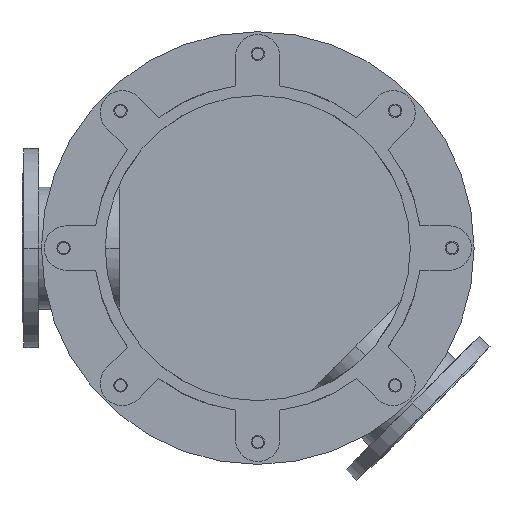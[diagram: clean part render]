
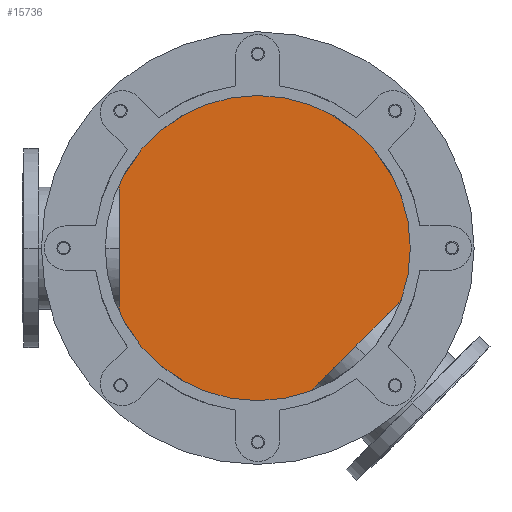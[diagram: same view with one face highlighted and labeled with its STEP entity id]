
A CAD part, front view. The second image highlights one B-rep face of the part: STEP entity #15736.
In plain terms, the highlighted planar face has unit normal (0, -1, 0).
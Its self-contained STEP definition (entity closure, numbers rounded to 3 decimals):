
#3909=CARTESIAN_POINT('',(0.,1359.,0.));
#3910=DIRECTION('',(0.,-1.,0.));
#3911=DIRECTION('',(0.,0.,-1.));
#3912=AXIS2_PLACEMENT_3D('',#3909,#3910,#3911);
#4060=CARTESIAN_POINT('',(0.,1359.,0.));
#4061=DIRECTION('',(0.,-1.,0.));
#4062=DIRECTION('',(0.,0.,1.));
#4063=AXIS2_PLACEMENT_3D('',#4060,#4061,#4062);
#9186=CARTESIAN_POINT('',(0.,1359.,290.));
#9187=CARTESIAN_POINT('',(0.,1359.,-290.));
#9188=VERTEX_POINT('',#9186);
#9189=VERTEX_POINT('',#9187);
#15727=CARTESIAN_POINT('',(0.,1359.,0.));
#15728=DIRECTION('',(0.,1.,0.));
#15729=DIRECTION('',(0.,0.,-1.));
#15730=AXIS2_PLACEMENT_3D('',#15727,#15728,#15729);
#15731=PLANE('',#15730);
#15732=ORIENTED_EDGE('',*,*,#15713,.F.);
#15733=ORIENTED_EDGE('',*,*,#15612,.F.);
#15734=EDGE_LOOP('',(#15732,#15733));
#15735=FACE_OUTER_BOUND('',#15734,.F.);
#15736=ADVANCED_FACE('',(#15735),#15731,.F.);
#3913=CIRCLE('',#3912,290.);
#4064=CIRCLE('',#4063,290.);
#15612=EDGE_CURVE('',#9189,#9188,#3913,.T.);
#15713=EDGE_CURVE('',#9188,#9189,#4064,.T.);
